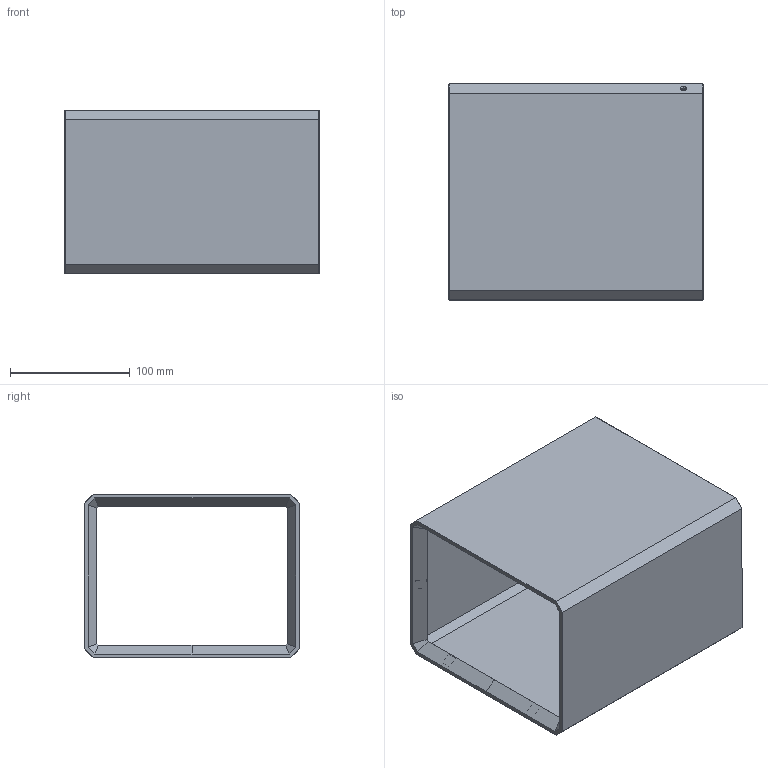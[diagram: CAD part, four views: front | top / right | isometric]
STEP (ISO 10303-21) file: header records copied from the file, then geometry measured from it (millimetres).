
FILE_DESCRIPTION (( 'STEP AP214' ), '1' );
FILE_NAME ('旳俋褲CAD.STEP', '2023-03-01T00:36:22', ( '' ), ( '' ), 'SwSTEP 2.0', 'SolidWorks 2020', '' );
FILE_SCHEMA (( 'AUTOMOTIVE_DESIGN' ));
Length unit declared in the file: millimetre
Products named in the file (1): 旳俋褲CAD
Bounding box: 212.5 x 180.35 x 137 mm (x, y, z)
Volume: 442547.2 mm3; surface area: 268025.3 mm2
Topology: 1 solids, 1 shells, 136 faces, 312 edges, 190 vertices
Faces by surface type: plane 120, cylinder 12, cone 4
Entity records: 3750 total; most frequent: CARTESIAN_POINT 639, ORIENTED_EDGE 624, DIRECTION 614, EDGE_CURVE 312, VECTOR 284, LINE 284, VERTEX_POINT 190, AXIS2_PLACEMENT_3D 165
